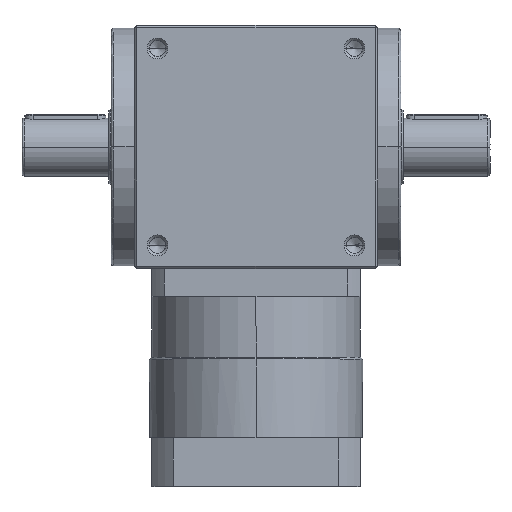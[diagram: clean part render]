
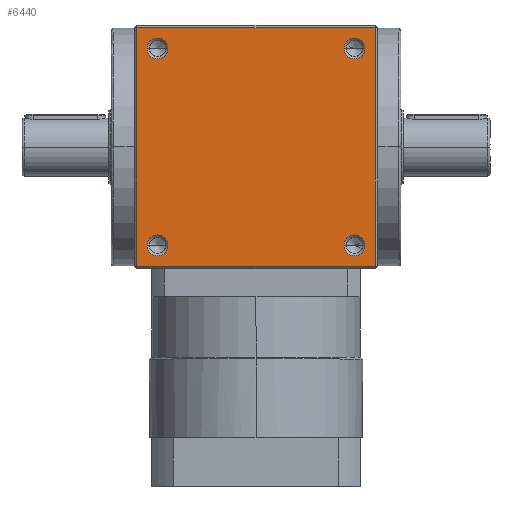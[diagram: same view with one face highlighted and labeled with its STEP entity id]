
A CAD part, top view. The second image highlights one B-rep face of the part: STEP entity #6440.
In plain terms, the highlighted planar face has unit normal (0, 0, 1).
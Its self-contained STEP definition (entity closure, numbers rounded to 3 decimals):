
#182 = CIRCLE ( 'NONE', #5882, 9. ) ;
#241 = CARTESIAN_POINT ( 'NONE',  ( -76., 85., 105. ) ) ;
#256 = CARTESIAN_POINT ( 'NONE',  ( -103., -103., 105. ) ) ;
#258 = CARTESIAN_POINT ( 'NONE',  ( -103., 0., 105. ) ) ;
#392 = CARTESIAN_POINT ( 'NONE',  ( 85., -85., 105. ) ) ;
#442 = CIRCLE ( 'NONE', #6807, 9. ) ;
#551 = CARTESIAN_POINT ( 'NONE',  ( 94., 85., 105. ) ) ;
#730 = CARTESIAN_POINT ( 'NONE',  ( -94., 85., 105. ) ) ;
#790 = CIRCLE ( 'NONE', #5995, 9. ) ;
#802 = DIRECTION ( 'NONE',  ( 0., 0., 1. ) ) ;
#804 = VERTEX_POINT ( 'NONE', #12359 ) ;
#856 = DIRECTION ( 'NONE',  ( 0., 0., 1. ) ) ;
#925 = VERTEX_POINT ( 'NONE', #9819 ) ;
#1064 = CIRCLE ( 'NONE', #6062, 9. ) ;
#1296 = ORIENTED_EDGE ( 'NONE', *, *, #3305, .F. ) ;
#1382 = DIRECTION ( 'NONE',  ( 1., 0., 0. ) ) ;
#1720 = CARTESIAN_POINT ( 'NONE',  ( 0., 103., 105. ) ) ;
#1769 = DIRECTION ( 'NONE',  ( -1., 0., 0. ) ) ;
#2040 = EDGE_LOOP ( 'NONE', ( #1296, #7848 ) ) ;
#2186 = AXIS2_PLACEMENT_3D ( 'NONE', #3538, #10328, #4498 ) ;
#2198 = CARTESIAN_POINT ( 'NONE',  ( 103., 103., 105. ) ) ;
#2239 = EDGE_LOOP ( 'NONE', ( #10658, #10795 ) ) ;
#2303 = EDGE_CURVE ( 'NONE', #3727, #10517, #3249, .T. ) ;
#2325 = VERTEX_POINT ( 'NONE', #730 ) ;
#2907 = CIRCLE ( 'NONE', #3334, 9. ) ;
#2986 = FACE_BOUND ( 'NONE', #2040, .T. ) ;
#3070 = CARTESIAN_POINT ( 'NONE',  ( -85., 85., 105. ) ) ;
#3171 = CARTESIAN_POINT ( 'NONE',  ( -76., -85., 105. ) ) ;
#3232 = CARTESIAN_POINT ( 'NONE',  ( -85., -85., 105. ) ) ;
#3249 = LINE ( 'NONE', #1720, #3988 ) ;
#3305 = EDGE_CURVE ( 'NONE', #8887, #7953, #1064, .T. ) ;
#3325 = EDGE_CURVE ( 'NONE', #4415, #804, #182, .T. ) ;
#3334 = AXIS2_PLACEMENT_3D ( 'NONE', #392, #7209, #1382 ) ;
#3349 = VERTEX_POINT ( 'NONE', #12487 ) ;
#3497 = FACE_BOUND ( 'NONE', #12216, .T. ) ;
#3538 = CARTESIAN_POINT ( 'NONE',  ( -85., 85., 105. ) ) ;
#3612 = ORIENTED_EDGE ( 'NONE', *, *, #7684, .F. ) ;
#3727 = VERTEX_POINT ( 'NONE', #2198 ) ;
#3988 = VECTOR ( 'NONE', #1769, 1000. ) ;
#4006 = DIRECTION ( 'NONE',  ( 1., 0., 0. ) ) ;
#4092 = CIRCLE ( 'NONE', #8433, 9. ) ;
#4177 = DIRECTION ( 'NONE',  ( 1., 0., 0. ) ) ;
#4415 = VERTEX_POINT ( 'NONE', #3171 ) ;
#4498 = DIRECTION ( 'NONE',  ( 1., 0., 0. ) ) ;
#4502 = EDGE_CURVE ( 'NONE', #3727, #3349, #8428, .T. ) ;
#4837 = FACE_OUTER_BOUND ( 'NONE', #11425, .T. ) ;
#4902 = CARTESIAN_POINT ( 'NONE',  ( 76., 85., 105. ) ) ;
#5086 = ORIENTED_EDGE ( 'NONE', *, *, #4502, .F. ) ;
#5101 = ORIENTED_EDGE ( 'NONE', *, *, #8684, .F. ) ;
#5283 = CIRCLE ( 'NONE', #6483, 9. ) ;
#5304 = EDGE_CURVE ( 'NONE', #6304, #10517, #10787, .T. ) ;
#5315 = DIRECTION ( 'NONE',  ( 0., 0., -1. ) ) ;
#5370 = DIRECTION ( 'NONE',  ( 0., 0., 1. ) ) ;
#5456 = CARTESIAN_POINT ( 'NONE',  ( -103., 103., 105. ) ) ;
#5882 = AXIS2_PLACEMENT_3D ( 'NONE', #7523, #5370, #12164 ) ;
#5995 = AXIS2_PLACEMENT_3D ( 'NONE', #3232, #10029, #4177 ) ;
#6062 = AXIS2_PLACEMENT_3D ( 'NONE', #8012, #6821, #11699 ) ;
#6162 = VERTEX_POINT ( 'NONE', #10752 ) ;
#6304 = VERTEX_POINT ( 'NONE', #256 ) ;
#6440 = ADVANCED_FACE ( 'NONE', ( #4837, #6550, #2986, #3497, #6523 ), #8151, .F. ) ;
#6483 = AXIS2_PLACEMENT_3D ( 'NONE', #6675, #856, #7660 ) ;
#6523 = FACE_BOUND ( 'NONE', #2239, .T. ) ;
#6550 = FACE_BOUND ( 'NONE', #6573, .T. ) ;
#6573 = EDGE_LOOP ( 'NONE', ( #5101, #12015 ) ) ;
#6616 = CARTESIAN_POINT ( 'NONE',  ( 85., -85., 105. ) ) ;
#6675 = CARTESIAN_POINT ( 'NONE',  ( 85., 85., 105. ) ) ;
#6677 = VECTOR ( 'NONE', #8067, 1000. ) ;
#6721 = ORIENTED_EDGE ( 'NONE', *, *, #3325, .F. ) ;
#6807 = AXIS2_PLACEMENT_3D ( 'NONE', #6616, #802, #7600 ) ;
#6821 = DIRECTION ( 'NONE',  ( 0., 0., 1. ) ) ;
#7103 = CARTESIAN_POINT ( 'NONE',  ( 103., 0., 105. ) ) ;
#7169 = CARTESIAN_POINT ( 'NONE',  ( 0., -103., 105. ) ) ;
#7199 = DIRECTION ( 'NONE',  ( 0., -1., 0. ) ) ;
#7209 = DIRECTION ( 'NONE',  ( 0., 0., 1. ) ) ;
#7330 = VECTOR ( 'NONE', #7199, 1000. ) ;
#7421 = ORIENTED_EDGE ( 'NONE', *, *, #10815, .F. ) ;
#7523 = CARTESIAN_POINT ( 'NONE',  ( -85., -85., 105. ) ) ;
#7600 = DIRECTION ( 'NONE',  ( 1., 0., 0. ) ) ;
#7660 = DIRECTION ( 'NONE',  ( 1., 0., 0. ) ) ;
#7684 = EDGE_CURVE ( 'NONE', #3349, #6304, #10775, .T. ) ;
#7765 = CIRCLE ( 'NONE', #2186, 9. ) ;
#7848 = ORIENTED_EDGE ( 'NONE', *, *, #10623, .F. ) ;
#7953 = VERTEX_POINT ( 'NONE', #4902 ) ;
#8012 = CARTESIAN_POINT ( 'NONE',  ( 85., 85., 105. ) ) ;
#8067 = DIRECTION ( 'NONE',  ( 0., 1., 0. ) ) ;
#8151 = PLANE ( 'NONE',  #12026 ) ;
#8428 = LINE ( 'NONE', #7103, #7330 ) ;
#8433 = AXIS2_PLACEMENT_3D ( 'NONE', #3070, #9862, #4006 ) ;
#8539 = VECTOR ( 'NONE', #12022, 1000. ) ;
#8684 = EDGE_CURVE ( 'NONE', #10170, #2325, #4092, .T. ) ;
#8887 = VERTEX_POINT ( 'NONE', #551 ) ;
#9819 = CARTESIAN_POINT ( 'NONE',  ( 94., -85., 105. ) ) ;
#9862 = DIRECTION ( 'NONE',  ( 0., 0., 1. ) ) ;
#10029 = DIRECTION ( 'NONE',  ( 0., 0., 1. ) ) ;
#10170 = VERTEX_POINT ( 'NONE', #241 ) ;
#10302 = EDGE_CURVE ( 'NONE', #925, #6162, #2907, .T. ) ;
#10328 = DIRECTION ( 'NONE',  ( 0., 0., 1. ) ) ;
#10486 = EDGE_CURVE ( 'NONE', #2325, #10170, #7765, .T. ) ;
#10517 = VERTEX_POINT ( 'NONE', #5456 ) ;
#10623 = EDGE_CURVE ( 'NONE', #7953, #8887, #5283, .T. ) ;
#10658 = ORIENTED_EDGE ( 'NONE', *, *, #10302, .F. ) ;
#10752 = CARTESIAN_POINT ( 'NONE',  ( 76., -85., 105. ) ) ;
#10775 = LINE ( 'NONE', #7169, #8539 ) ;
#10787 = LINE ( 'NONE', #258, #6677 ) ;
#10795 = ORIENTED_EDGE ( 'NONE', *, *, #11039, .F. ) ;
#10815 = EDGE_CURVE ( 'NONE', #804, #4415, #790, .T. ) ;
#11039 = EDGE_CURVE ( 'NONE', #6162, #925, #442, .T. ) ;
#11173 = CARTESIAN_POINT ( 'NONE',  ( 0., 0., 105. ) ) ;
#11425 = EDGE_LOOP ( 'NONE', ( #3612, #5086, #11583, #12237 ) ) ;
#11583 = ORIENTED_EDGE ( 'NONE', *, *, #2303, .T. ) ;
#11699 = DIRECTION ( 'NONE',  ( 1., 0., 0. ) ) ;
#12015 = ORIENTED_EDGE ( 'NONE', *, *, #10486, .F. ) ;
#12022 = DIRECTION ( 'NONE',  ( -1., 0., 0. ) ) ;
#12026 = AXIS2_PLACEMENT_3D ( 'NONE', #11173, #5315, #12117 ) ;
#12117 = DIRECTION ( 'NONE',  ( -1., 0., 0. ) ) ;
#12164 = DIRECTION ( 'NONE',  ( 1., 0., 0. ) ) ;
#12216 = EDGE_LOOP ( 'NONE', ( #6721, #7421 ) ) ;
#12237 = ORIENTED_EDGE ( 'NONE', *, *, #5304, .F. ) ;
#12359 = CARTESIAN_POINT ( 'NONE',  ( -94., -85., 105. ) ) ;
#12487 = CARTESIAN_POINT ( 'NONE',  ( 103., -103., 105. ) ) ;
